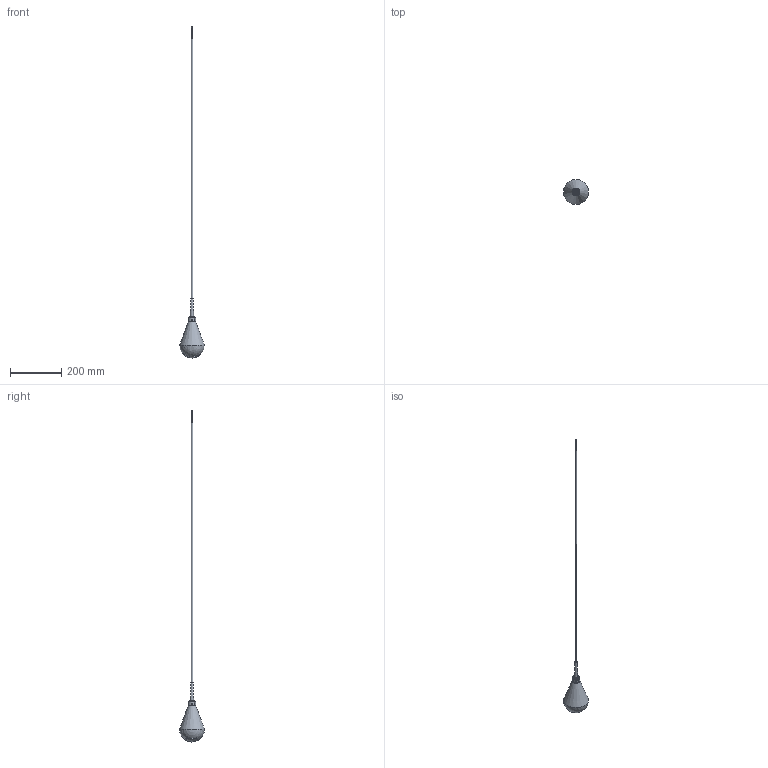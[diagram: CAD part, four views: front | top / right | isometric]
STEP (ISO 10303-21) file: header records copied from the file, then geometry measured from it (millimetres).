
FILE_DESCRIPTION (( 'STEP AP214' ), '1' );
FILE_NAME ('ﾏﾑﾓ-1.01.STEP', '2025-02-05T10:49:35', ( '' ), ( '' ), 'SwSTEP 2.0', 'SolidWorks 2019', '' );
FILE_SCHEMA (( 'AUTOMOTIVE_DESIGN' ));
Length unit declared in the file: millimetre
Products named in the file (1): ﾏﾑﾓ-1.01
Bounding box: 97 x 97 x 1290.51 mm (x, y, z)
Volume: 180586.4 mm3; surface area: 93694.7 mm2
Topology: 1 solids, 2 shells, 352 faces, 926 edges, 615 vertices
Faces by surface type: bspline 262, plane 43, sphere 25, cylinder 17, cone 4, torus 1
Full cylindrical faces by diameter (mm): 1.5 x3, 2 x3, 7 x1, 22 x1, 26 x1
Entity records: 36650 total; most frequent: CARTESIAN_POINT 26970, ORIENTED_EDGE 1814, EDGE_CURVE 907, B_SPLINE_CURVE_WITH_KNOTS 786, VERTEX_POINT 613, EDGE_LOOP 406, FACE_OUTER_BOUND 363, DIRECTION 360
